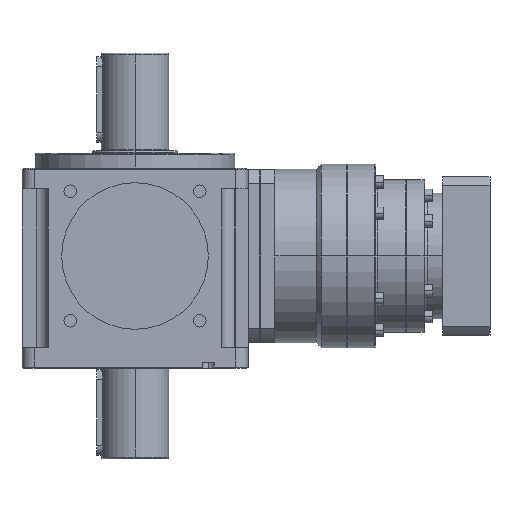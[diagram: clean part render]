
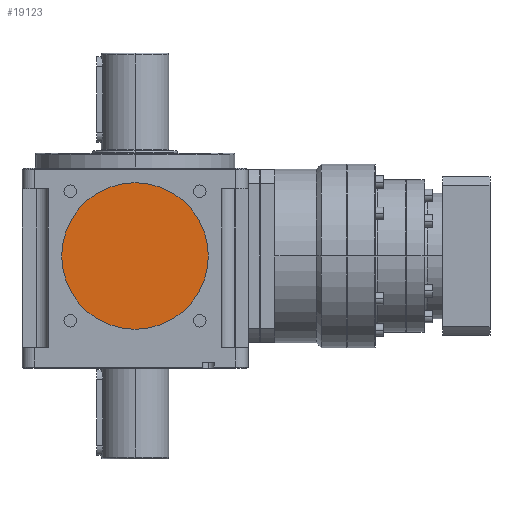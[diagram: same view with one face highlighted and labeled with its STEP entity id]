
A CAD part, left-side view. The second image highlights one B-rep face of the part: STEP entity #19123.
In plain terms, the highlighted planar face has unit normal (-1, 0, 0).
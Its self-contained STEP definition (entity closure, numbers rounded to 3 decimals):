
#262 = CARTESIAN_POINT ( 'NONE',  ( -87.5, 0., 0. ) ) ;
#378 = CARTESIAN_POINT ( 'NONE',  ( -87.5, 0., 60. ) ) ;
#495 = EDGE_CURVE ( 'NONE', #16394, #19423, #10098, .T. ) ;
#2505 = DIRECTION ( 'NONE',  ( 0., 0., -1. ) ) ;
#3752 = AXIS2_PLACEMENT_3D ( 'NONE', #262, #6087, #7759 ) ;
#3986 = CIRCLE ( 'NONE', #9014, 60. ) ;
#5032 = AXIS2_PLACEMENT_3D ( 'NONE', #12447, #10666, #12537 ) ;
#5825 = ORIENTED_EDGE ( 'NONE', *, *, #495, .T. ) ;
#6087 = DIRECTION ( 'NONE',  ( -1., 0., 0. ) ) ;
#7456 = ORIENTED_EDGE ( 'NONE', *, *, #14930, .T. ) ;
#7465 = FACE_OUTER_BOUND ( 'NONE', #8922, .T. ) ;
#7759 = DIRECTION ( 'NONE',  ( 0., 0., -1. ) ) ;
#7854 = PLANE ( 'NONE',  #3752 ) ;
#8922 = EDGE_LOOP ( 'NONE', ( #7456, #5825 ) ) ;
#9014 = AXIS2_PLACEMENT_3D ( 'NONE', #19111, #17602, #2505 ) ;
#9406 = CARTESIAN_POINT ( 'NONE',  ( -87.5, 0., -60. ) ) ;
#10098 = CIRCLE ( 'NONE', #5032, 60. ) ;
#10666 = DIRECTION ( 'NONE',  ( -1., 0., 0. ) ) ;
#12447 = CARTESIAN_POINT ( 'NONE',  ( -87.5, 0., 0. ) ) ;
#12537 = DIRECTION ( 'NONE',  ( 0., 0., -1. ) ) ;
#14930 = EDGE_CURVE ( 'NONE', #19423, #16394, #3986, .T. ) ;
#16394 = VERTEX_POINT ( 'NONE', #9406 ) ;
#17602 = DIRECTION ( 'NONE',  ( -1., 0., 0. ) ) ;
#19111 = CARTESIAN_POINT ( 'NONE',  ( -87.5, 0., 0. ) ) ;
#19123 = ADVANCED_FACE ( 'NONE', ( #7465 ), #7854, .T. ) ;
#19423 = VERTEX_POINT ( 'NONE', #378 ) ;
